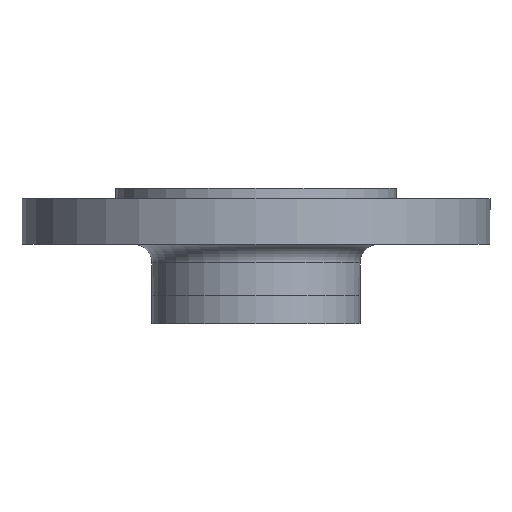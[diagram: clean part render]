
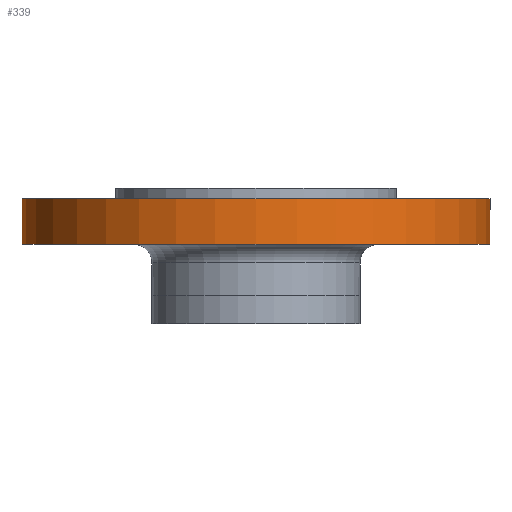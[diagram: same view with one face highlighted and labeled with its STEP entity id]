
A CAD part, front view. The second image highlights one B-rep face of the part: STEP entity #339.
In plain terms, the highlighted cylindrical face has radius 100 mm (diameter 200 mm), a partial arc.
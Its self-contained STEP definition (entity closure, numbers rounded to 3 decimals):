
#5 = EDGE_CURVE ( 'NONE', #875, #1096, #839, .T. ) ;
#24 = VECTOR ( 'NONE', #624, 1000. ) ;
#54 = EDGE_CURVE ( 'NONE', #1108, #875, #626, .T. ) ;
#77 = CARTESIAN_POINT ( 'NONE',  ( -100., 0., -24. ) ) ;
#109 = CARTESIAN_POINT ( 'NONE',  ( 100., 0., -24. ) ) ;
#115 = CARTESIAN_POINT ( 'NONE',  ( -100., 0., -4.5 ) ) ;
#292 = CARTESIAN_POINT ( 'NONE',  ( 100., 0., -4.5 ) ) ;
#339 = ADVANCED_FACE ( 'NONE', ( #1002 ), #1001, .T. ) ;
#348 = DIRECTION ( 'NONE',  ( -1., 0., 0. ) ) ;
#349 = DIRECTION ( 'NONE',  ( 0., 0., -1. ) ) ;
#350 = CARTESIAN_POINT ( 'NONE',  ( 0., 0., -24. ) ) ;
#373 = EDGE_CURVE ( 'NONE', #1148, #1096, #570, .T. ) ;
#381 = AXIS2_PLACEMENT_3D ( 'NONE', #949, #951, #952 ) ;
#568 = DIRECTION ( 'NONE',  ( 0., 0., 1. ) ) ;
#569 = CARTESIAN_POINT ( 'NONE',  ( -100., 0., -68. ) ) ;
#570 = LINE ( 'NONE', #569, #620 ) ;
#620 = VECTOR ( 'NONE', #568, 1000. ) ;
#624 = DIRECTION ( 'NONE',  ( 0., 0., 1. ) ) ;
#626 = LINE ( 'NONE', #632, #24 ) ;
#632 = CARTESIAN_POINT ( 'NONE',  ( 100., 0., -68. ) ) ;
#667 = ORIENTED_EDGE ( 'NONE', *, *, #373, .F. ) ;
#669 = ORIENTED_EDGE ( 'NONE', *, *, #814, .F. ) ;
#672 = ORIENTED_EDGE ( 'NONE', *, *, #54, .T. ) ;
#673 = ORIENTED_EDGE ( 'NONE', *, *, #5, .T. ) ;
#813 = CIRCLE ( 'NONE', #838, 100. ) ;
#814 = EDGE_CURVE ( 'NONE', #1108, #1148, #813, .T. ) ;
#838 = AXIS2_PLACEMENT_3D ( 'NONE', #350, #349, #348 ) ;
#839 = CIRCLE ( 'NONE', #381, 100. ) ;
#854 = AXIS2_PLACEMENT_3D ( 'NONE', #999, #998, #997 ) ;
#875 = VERTEX_POINT ( 'NONE', #292 ) ;
#949 = CARTESIAN_POINT ( 'NONE',  ( 0., 0., -4.5 ) ) ;
#951 = DIRECTION ( 'NONE',  ( 0., 0., -1. ) ) ;
#952 = DIRECTION ( 'NONE',  ( -1., 0., 0. ) ) ;
#997 = DIRECTION ( 'NONE',  ( 1., 0., 0. ) ) ;
#998 = DIRECTION ( 'NONE',  ( 0., 0., 1. ) ) ;
#999 = CARTESIAN_POINT ( 'NONE',  ( 0., 0., -68. ) ) ;
#1001 = CYLINDRICAL_SURFACE ( 'NONE', #854, 100. ) ;
#1002 = FACE_OUTER_BOUND ( 'NONE', #1105, .T. ) ;
#1096 = VERTEX_POINT ( 'NONE', #115 ) ;
#1105 = EDGE_LOOP ( 'NONE', ( #667, #669, #672, #673 ) ) ;
#1108 = VERTEX_POINT ( 'NONE', #109 ) ;
#1148 = VERTEX_POINT ( 'NONE', #77 ) ;
